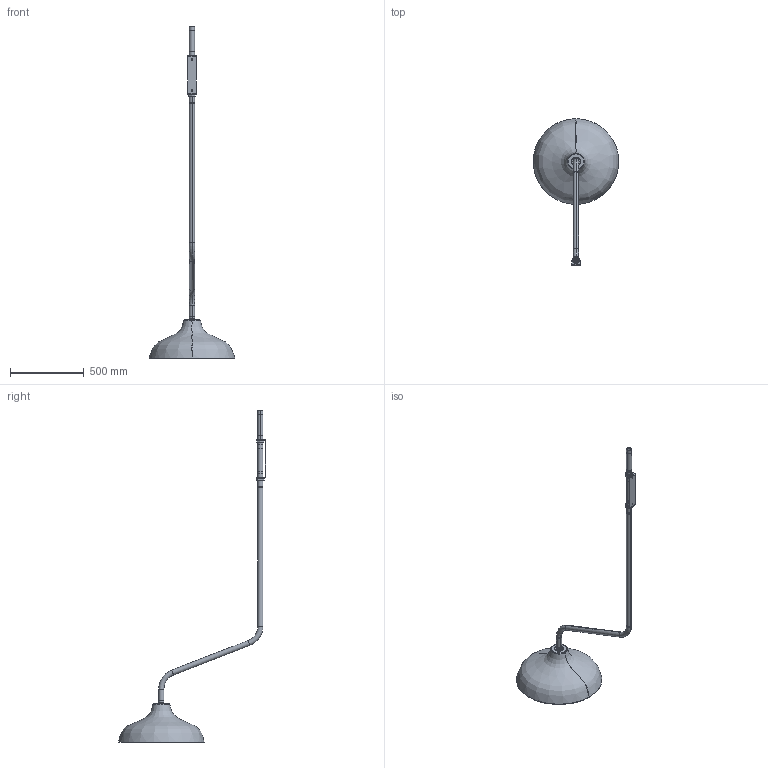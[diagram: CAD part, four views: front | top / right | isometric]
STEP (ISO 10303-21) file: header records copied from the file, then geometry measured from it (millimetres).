
FILE_DESCRIPTION((''),'2;1');
FILE_NAME('PAGODA-APPLIQUE_ASM','2023-02-21T09:30:38',('adriano.sorzio'),(''),'CREO PARAMETRIC BY PTC INC, 2020354','CREO PARAMETRIC BY PTC INC, 2020354','');
FILE_SCHEMA(('CONFIG_CONTROL_DESIGN','SHAPE_APPEARANCE_LAYERS_GROUPS'));
Length unit declared in the file: millimetre
Products named in the file (25): 01207; 01208; 01209; 01210; BN3091975; 01209C_ASM; 01211; 01212; 01211C_ASM; 01213; 01214; 01215; STEAB_5435; 01216; 01217; T-10-20-21; 01218; PL-E27-C002-01; PL-E27-C002-02; PL-E27-C002-03; PL-E27-C002_ASM; 01219; 01220; 01213C_ASM; PAGODA-APPLIQUE_ASM
Assembly tree (26 placements, depth 4):
  PAGODA-APPLIQUE_ASM
    01207
    01208
    01209C_ASM
      01209
      01210
      BN3091975
    01211C_ASM
      01211
      01210
      01212
    01213C_ASM
      01213
      01214
      BN3091975
      01215
      STEAB_5435
      01216
      01217
      T-10-20-21
      01218
      PL-E27-C002_ASM
        PL-E27-C002-01
        PL-E27-C002-02
        PL-E27-C002-03
      01219
      01220
Bounding box: 580 x 995.29 x 2247.03 mm (x, y, z)
Volume: 2517492.8 mm3; surface area: 1498037.6 mm2
Topology: 22 solids, 43 shells, 759 faces, 1906 edges, 1217 vertices
Faces by surface type: cylinder 323, plane 234, cone 118, bspline 64, torus 16, revolution 4
Entity records: 42954 total; most frequent: CARTESIAN_POINT 25546, ORIENTED_EDGE 3476, DIRECTION 3390, EDGE_CURVE 1772, AXIS2_PLACEMENT_3D 1321, VERTEX_POINT 1135, EDGE_LOOP 771, VECTOR 744
